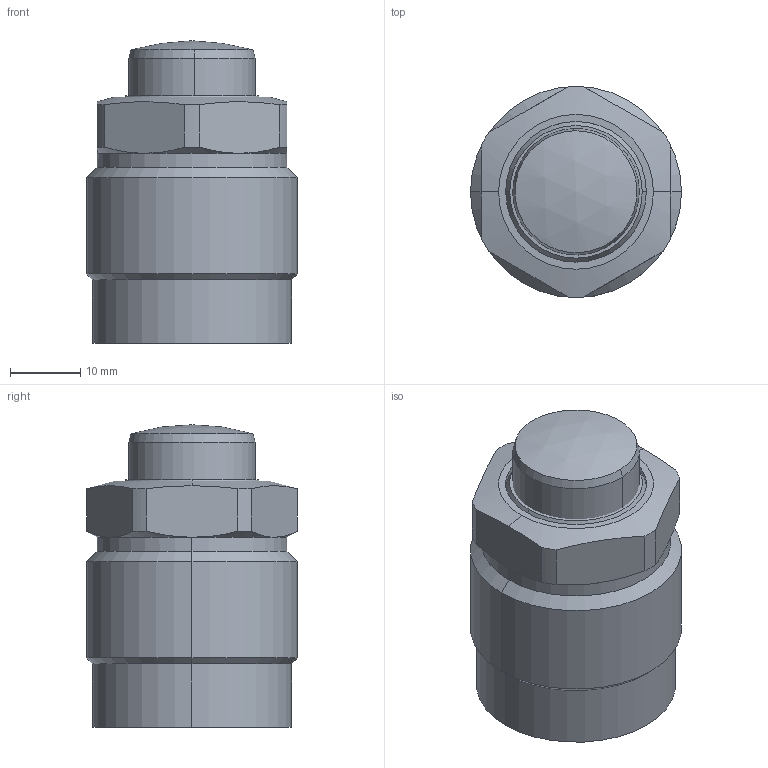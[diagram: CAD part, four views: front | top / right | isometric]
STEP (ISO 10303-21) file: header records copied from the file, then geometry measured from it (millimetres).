
FILE_DESCRIPTION (( 'STEP AP203' ), '1' );
FILE_NAME ('650301-RS.step', '2016-11-02T03:14:17', ( 'wxp' ), ( '' ), 'SwSTEP 2.0', 'SolidWorks 2011', '' );
FILE_SCHEMA (( 'CONFIG_CONTROL_DESIGN' ));
Length unit declared in the file: millimetre
Products named in the file (3): 650301-RS; 葩璃 650301-RS.sldasm-Part-2^650301-RS; 葩璃 650301-RS.sldasm-Part-1^650301-RS
Assembly tree (2 placements, depth 2):
  650301-RS
    葩璃 650301-RS.sldasm-Part-1^650301-RS
    葩璃 650301-RS.sldasm-Part-2^650301-RS
Bounding box: 30 x 30 x 43 mm (x, y, z)
Volume: 25060.5 mm3; surface area: 5906.5 mm2
Topology: 2 solids, 2 shells, 66 faces, 150 edges, 93 vertices
Faces by surface type: cylinder 26, cone 18, plane 15, torus 6, sphere 1
Entity records: 2241 total; most frequent: CARTESIAN_POINT 436, DIRECTION 342, ORIENTED_EDGE 300, EDGE_CURVE 150, AXIS2_PLACEMENT_3D 149, VERTEX_POINT 95, CIRCLE 78, EDGE_LOOP 73
